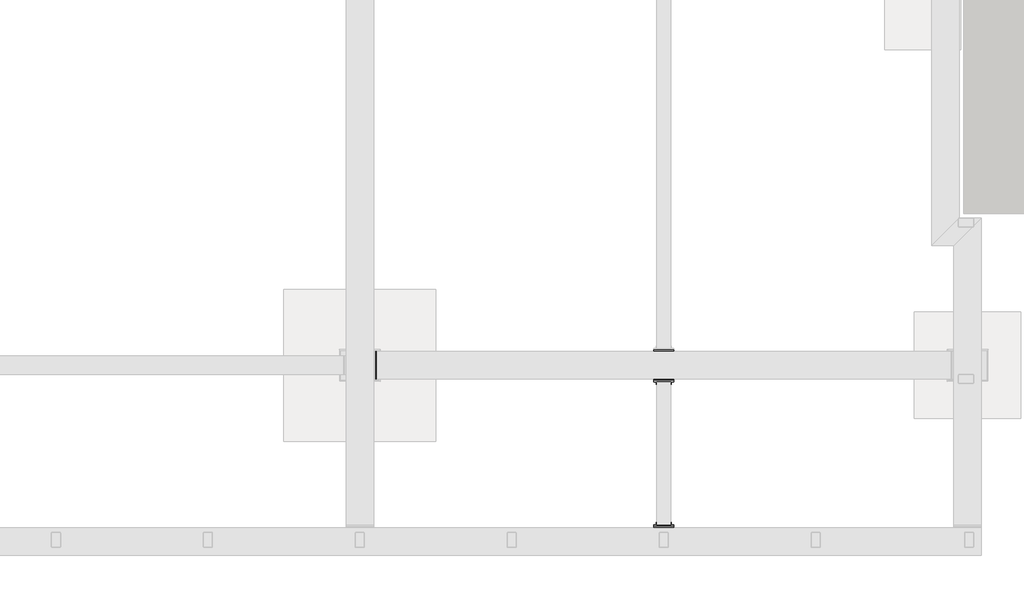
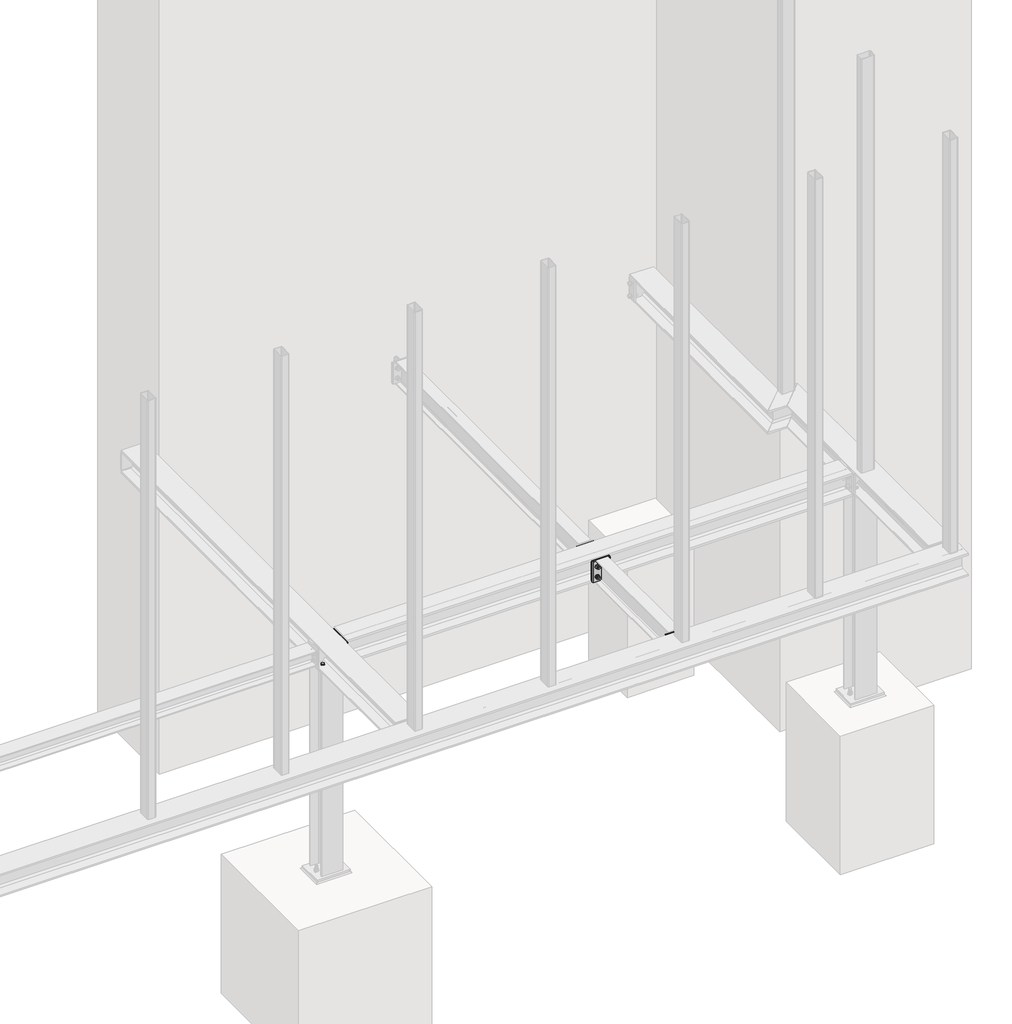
# One storey, part 13 of 31: 12 proxies.
"""IFC4 building model written with IfcOpenShell, lengths in millimetres."""

import ifcopenshell
import ifcopenshell.guid

model = None  # the IFC model being written
_history = None  # IfcOwnerHistory: only IFC2X3 demands one
_inside = {}  # id of a spatial element -> (the spatial element, [elements in it])
_under = {}  # id of a project, library or spatial element -> (it, [spatial elements below it])
_declared = {}  # id of a project -> (the project, [libraries it declares])
_typed = {}  # id of a type object -> (the type object, [elements of that type])
_made_of = {}  # id of a material, layer set ... -> (it, [elements and type objects made of it])


def new_model(schema):
    """Start an empty IFC model of exactly this schema.

    Asked for "IFC4X3", IfcOpenShell would pick the latest addendum, in which some entities
    have other attributes; the version numbers below select the first issue.
    IFC2X3 requires an IfcOwnerHistory on every rooted entity: one is made here for all.
    """
    global model, _history
    if schema == "IFC4X3":
        model = ifcopenshell.file(schema_version=(4, 3, 0, 0))
    else:
        model = ifcopenshell.file(schema=schema)
    _inside.clear()
    _under.clear()
    _declared.clear()
    _typed.clear()
    _made_of.clear()
    _history = None
    if model.schema == "IFC2X3":
        org = make("IfcOrganization", Name="unknown")
        user = make(
            "IfcPersonAndOrganization",
            ThePerson=make("IfcPerson", FamilyName="unknown"),
            TheOrganization=org,
        )
        app = make(
            "IfcApplication",
            ApplicationDeveloper=org,
            Version="unknown",
            ApplicationFullName="unknown",
            ApplicationIdentifier="unknown",
        )
        _history = make(
            "IfcOwnerHistory",
            OwningUser=user,
            OwningApplication=app,
            ChangeAction="ADDED",
            CreationDate=0,
        )
    return model


def make(cls, **values):
    """One entity of the class cls with the attributes given. An attribute that is None is left unset."""
    return model.create_entity(
        cls, **{name: value for name, value in values.items() if value is not None}
    )


def rooted(cls, **values):
    """An entity with a GlobalId (a new one), such as an element, a storey or a relation."""
    return make(cls, GlobalId=ifcopenshell.guid.new(), OwnerHistory=_history, **values)


def si_unit(unit_type, name, prefix=None):
    """IfcSIUnit, for example si_unit("LENGTHUNIT", "METRE", prefix="MILLI")."""
    return make("IfcSIUnit", UnitType=unit_type, Prefix=prefix, Name=name)


def assignment(units):
    """IfcUnitAssignment: the units of a project."""
    return None if units is None else make("IfcUnitAssignment", Units=units)


def point(xyz):
    """IfcCartesianPoint."""
    return None if xyz is None else make("IfcCartesianPoint", Coordinates=xyz)


def direction(xyz):
    """IfcDirection."""
    return None if xyz is None else make("IfcDirection", DirectionRatios=xyz)


def frame(location, z_axis=None, x_axis=None):
    """IfcAxis2Placement3D, a coordinate frame: its origin and axes. An axis left out is left unset."""
    return make(
        "IfcAxis2Placement3D",
        Location=point(location),
        Axis=direction(z_axis),
        RefDirection=direction(x_axis),
    )


def frame_2d(location, x_axis=None):
    """IfcAxis2Placement2D, a coordinate frame in the plane: its origin and x axis."""
    return make(
        "IfcAxis2Placement2D", Location=point(location), RefDirection=direction(x_axis)
    )


def origin():
    """The frame at (0, 0, 0) with its axes left unset."""
    return frame((0.0, 0.0, 0.0))


def place(relative_to, where):
    """IfcLocalPlacement: puts the frame where relative to a parent placement (None: the world)."""
    return make(
        "IfcLocalPlacement", PlacementRelTo=relative_to, RelativePlacement=where
    )


def context(
    kind, dimensions, precision=None, world=None, true_north=None, identifier=None
):
    """IfcGeometricRepresentationContext, for example the 3D "Model" context."""
    return make(
        "IfcGeometricRepresentationContext",
        ContextIdentifier=identifier,
        ContextType=kind,
        CoordinateSpaceDimension=dimensions,
        Precision=precision,
        WorldCoordinateSystem=world,
        TrueNorth=true_north,
    )


def project(units=None, contexts=None):
    """IfcProject with its units and contexts."""
    return rooted(
        "IfcProject",
        Name="project",
        RepresentationContexts=contexts,
        UnitsInContext=assignment(units),
    )


def spatial(cls, under=None, at=None, **own):
    """A site, building, storey or space (cls), placed at a placement, below another one or the project."""
    s = rooted(cls, ObjectPlacement=at, **own)
    if under is not None:
        _under.setdefault(under.id(), (under, []))[1].append(s)
    return s


def polyline(points):
    """IfcPolyline through the points."""
    return make("IfcPolyline", Points=[point(p) for p in points])


def circle_curve(where, radius):
    """IfcCircle in the frame where."""
    return make("IfcCircle", Position=where, Radius=radius)


def trimmed(basis, trim1, trim2, sense, master):
    """IfcTrimmedCurve: the piece of a basis curve between two trims."""
    return make(
        "IfcTrimmedCurve",
        BasisCurve=basis,
        Trim1=trim1,
        Trim2=trim2,
        SenseAgreement=sense,
        MasterRepresentation=master,
    )


def segment(curve, same_sense, transition):
    """IfcCompositeCurveSegment."""
    return make(
        "IfcCompositeCurveSegment",
        Transition=transition,
        SameSense=same_sense,
        ParentCurve=curve,
    )


def composite_curve(segments, self_intersect=None):
    """IfcCompositeCurve: segments joined end to end."""
    return make("IfcCompositeCurve", Segments=segments, SelfIntersect=self_intersect)


def outline(outer, holes=None, kind="AREA"):
    """IfcArbitraryClosedProfileDef: a profile drawn as a closed curve; with holes, ...WithVoids."""
    if holes is None:
        return make("IfcArbitraryClosedProfileDef", ProfileType=kind, OuterCurve=outer)
    return make(
        "IfcArbitraryProfileDefWithVoids",
        ProfileType=kind,
        OuterCurve=outer,
        InnerCurves=holes,
    )


def extrude(swept, where, along, depth):
    """IfcExtrudedAreaSolid: the profile swept, set in the frame where, extruded along a direction by depth."""
    return make(
        "IfcExtrudedAreaSolid",
        SweptArea=swept,
        Position=where,
        ExtrudedDirection=direction(along),
        Depth=depth,
    )


def shape(context_of_items, identifier, shape_type, items):
    """IfcShapeRepresentation: the items that make up one representation, for example the "Body"."""
    return make(
        "IfcShapeRepresentation",
        ContextOfItems=context_of_items,
        RepresentationIdentifier=identifier,
        RepresentationType=shape_type,
        Items=items,
    )


def made_of(thing, what):
    """Note that an element or type object is made of a material, layer set ...; save() writes the relation."""
    if what is not None:
        _made_of.setdefault(what.id(), (what, []))[1].append(thing)
    return thing


def element(
    cls,
    number,
    at=None,
    inside=None,
    cuts=None,
    type_object=None,
    material=None,
    context=None,
    identifier="Body",
    shape_type=None,
    held_by="IfcProductDefinitionShape",
    body=None,
    shapes=None,
    **own,
):
    """One element of the class cls, such as IfcWall. Its Tag is "e" and its number.

    at: its placement. inside: the storey or other place that contains it. cuts: it is an
    opening in that element (IfcRelVoidsElement). A single representation is given by context,
    identifier, shape_type and body (its items); several are given by shapes. held_by: the class
    of the entity that holds the representations. save() writes the other relations.
    """
    e = rooted(cls, Tag="e%d" % number, ObjectPlacement=at, **own)
    if body is not None:
        shapes = [shape(context, identifier, shape_type, body)]
    if shapes is not None:
        e.Representation = make(held_by, Representations=shapes)
    if inside is not None:
        _inside.setdefault(inside.id(), (inside, []))[1].append(e)
    if cuts is not None:
        rooted(
            "IfcRelVoidsElement", RelatingBuildingElement=cuts, RelatedOpeningElement=e
        )
    if type_object is not None:
        _typed.setdefault(type_object.id(), (type_object, []))[1].append(e)
    return made_of(e, material)


def aggregate(whole, parts):
    """IfcRelAggregates: a whole, such as a stair, and the parts it consists of."""
    return rooted("IfcRelAggregates", RelatingObject=whole, RelatedObjects=parts)


def save(model, path):
    """Write the relations noted so far, then the file.

    IfcRelAggregates (storeys below a building ...), IfcRelContainedInSpatialStructure (elements
    in a storey), IfcRelDefinesByType, IfcRelAssociatesMaterial and IfcRelDeclares: one each for
    every whole, place, type object, material and project.
    """
    for whole, parts in _under.values():
        aggregate(whole, parts)
    for where, things in _inside.values():
        rooted(
            "IfcRelContainedInSpatialStructure",
            RelatedElements=things,
            RelatingStructure=where,
        )
    for kind, things in _typed.values():
        rooted("IfcRelDefinesByType", RelatedObjects=things, RelatingType=kind)
    for what, things in _made_of.values():
        rooted("IfcRelAssociatesMaterial", RelatedObjects=things, RelatingMaterial=what)
    for by, libraries in _declared.values():
        rooted("IfcRelDeclares", RelatingContext=by, RelatedDefinitions=libraries)
    model.write(path)


model = new_model("IFC4")

# Units and contexts
model_context = context("Model", 3, world=origin())
ifc_project = project(units=[si_unit("LENGTHUNIT", "METRE", prefix="MILLI")], contexts=[model_context])

# Site, building, storey
site = spatial("IfcSite", under=ifc_project)
building = spatial("IfcBuilding", under=site)
storey = spatial("IfcBuildingStorey", under=building, Name="Základy", Elevation=-1200.0)

# Proxies
placement = place(None, origin())
element("IfcBuildingElementProxy", 1, Name="PLECH", ObjectType="PLECH", at=placement, inside=storey, context=model_context, shape_type="SweptSolid", body=[
    extrude(outline(composite_curve([segment(polyline([(190.0, -174.0), (190.0, -326.0), (124.25, -326.0)]), True, "CONTINUOUS"), segment(trimmed(circle_curve(frame_2d((104.25, -326.0)), 20.0), [point((124.25, -326.0))], [point((104.25, -306.0))], True, "CARTESIAN"), True, "CONTINUOUS"), segment(polyline([(104.25, -306.0), (104.25, -194.0)]), True, "CONTINUOUS"), segment(trimmed(circle_curve(frame_2d((104.25, -174.0)), 20.0), [point((104.25, -194.0))], [point((124.25, -174.0))], True, "CARTESIAN"), True, "CONTINUOUS"), segment(polyline([(124.25, -174.0), (190.0, -174.0)]), True, "CONTINUOUS")], self_intersect=False)), frame((14046.0, 0.0, 0.0), z_axis=(1.0, 0.0, 0.0), x_axis=(0.0, 1.0, 0.0)), (0.0, 0.0, 1.0), 8.0),
])
element("IfcBuildingElementProxy", 2, Name="PLECH", ObjectType="PLECH", at=placement, inside=storey, context=model_context, shape_type="SweptSolid", body=[
    extrude(outline(polyline([(13985.0, 200.0), (14115.0, 200.0), (14115.0, 190.0), (13985.0, 190.0), (13985.0, 200.0)])), frame((0.0, 0.0, -332.0), z_axis=(0.0, 0.0, 1.0), x_axis=(1.0, 0.0, 0.0)), (0.0, 0.0, 1.0), 164.0),
])
element("IfcBuildingElementProxy", 3, Name="PLECH", ObjectType="PLECH", at=placement, inside=storey, context=model_context, shape_type="SweptSolid", body=[
    extrude(outline(polyline([(13985.0, 210.0), (14115.0, 210.0), (14115.0, 200.0), (13985.0, 200.0), (13985.0, 210.0)])), frame((0.0, 0.0, -332.0), z_axis=(0.0, 0.0, 1.0), x_axis=(1.0, 0.0, 0.0)), (0.0, 0.0, 1.0), 164.0),
])
element("IfcBuildingElementProxy", 4, Name="PLECH", ObjectType="PLECH", at=placement, inside=storey, context=model_context, shape_type="SweptSolid", body=[
    extrude(outline(polyline([(13985.0, 1160.0), (14115.0, 1160.0), (14115.0, 1150.0), (13985.0, 1150.0), (13985.0, 1160.0)])), frame((0.0, 0.0, -332.0), z_axis=(0.0, 0.0, 1.0), x_axis=(1.0, 0.0, 0.0)), (0.0, 0.0, 1.0), 164.0),
])
element("IfcBuildingElementProxy", 5, Name="PLECH", ObjectType="PLECH", at=placement, inside=storey, context=model_context, shape_type="SweptSolid", body=[
    extrude(outline(polyline([(12150.0, 1170.0), (12150.0, 1350.0), (12160.0, 1350.0), (12160.0, 1170.0), (12150.0, 1170.0)])), frame((0.0, 0.0, -326.0), z_axis=(0.0, 0.0, 1.0), x_axis=(1.0, 0.0, 0.0)), (0.0, 0.0, 1.0), 152.0),
])
element("IfcBuildingElementProxy", 6, Name="PLECH", ObjectType="PLECH", at=placement, inside=storey, context=model_context, shape_type="SweptSolid", body=[
    extrude(outline(composite_curve([segment(polyline([(1170.0, -174.0), (1235.75, -174.0)]), True, "CONTINUOUS"), segment(trimmed(circle_curve(frame_2d((1255.75, -174.0)), 20.0), [point((1235.75, -174.0))], [point((1255.75, -194.0))], True, "CARTESIAN"), True, "CONTINUOUS"), segment(polyline([(1255.75, -194.0), (1255.75, -306.0)]), True, "CONTINUOUS"), segment(trimmed(circle_curve(frame_2d((1255.75, -326.0)), 20.0), [point((1255.75, -306.0))], [point((1235.75, -326.0))], True, "CARTESIAN"), True, "CONTINUOUS"), segment(polyline([(1235.75, -326.0), (1170.0, -326.0), (1170.0, -174.0)]), True, "CONTINUOUS")], self_intersect=False)), frame((14046.0, 0.0, 0.0), z_axis=(1.0, 0.0, 0.0), x_axis=(0.0, 1.0, 0.0)), (0.0, 0.0, 1.0), 8.0),
])
element("IfcBuildingElementProxy", 7, Name="PLECH", ObjectType="PLECH", at=placement, inside=storey, context=model_context, shape_type="SweptSolid", body=[
    extrude(outline(polyline([(13985.0, 1170.0), (14115.0, 1170.0), (14115.0, 1160.0), (13985.0, 1160.0), (13985.0, 1170.0)])), frame((0.0, 0.0, -332.0), z_axis=(0.0, 0.0, 1.0), x_axis=(1.0, 0.0, 0.0)), (0.0, 0.0, 1.0), 164.0),
])
element("IfcBuildingElementProxy", 8, Name="PLECH", ObjectType="PLECH", at=placement, inside=storey, context=model_context, shape_type="SweptSolid", body=[
    extrude(outline(composite_curve([segment(polyline([(1350.0, -174.0), (1350.0, -326.0), (1284.25, -326.0)]), True, "CONTINUOUS"), segment(trimmed(circle_curve(frame_2d((1264.25, -326.0)), 20.0), [point((1284.25, -326.0))], [point((1264.25, -306.0))], True, "CARTESIAN"), True, "CONTINUOUS"), segment(polyline([(1264.25, -306.0), (1264.25, -194.0)]), True, "CONTINUOUS"), segment(trimmed(circle_curve(frame_2d((1264.25, -174.0)), 20.0), [point((1264.25, -194.0))], [point((1284.25, -174.0))], True, "CARTESIAN"), True, "CONTINUOUS"), segment(polyline([(1284.25, -174.0), (1350.0, -174.0)]), True, "CONTINUOUS")], self_intersect=False)), frame((14046.0, 0.0, 0.0), z_axis=(1.0, 0.0, 0.0), x_axis=(0.0, 1.0, 0.0)), (0.0, 0.0, 1.0), 8.0),
])
element("IfcBuildingElementProxy", 9, Name="PLECH", ObjectType="PLECH", at=placement, inside=storey, context=model_context, shape_type="SweptSolid", body=[
    extrude(outline(polyline([(13985.0, 1360.0), (14115.0, 1360.0), (14115.0, 1350.0), (13985.0, 1350.0), (13985.0, 1360.0)])), frame((0.0, 0.0, -332.0), z_axis=(0.0, 0.0, 1.0), x_axis=(1.0, 0.0, 0.0)), (0.0, 0.0, 1.0), 164.0),
])
element("IfcBuildingElementProxy", 10, Name="Bolt assembly", ObjectType="Bolt assembly", at=placement, inside=storey, context=model_context, shape_type="SweptSolid", body=[
    extrude(outline(composite_curve([segment(trimmed(circle_curve(frame_2d((12000.0, 1220.0)), 6.5), [point((12006.5, 1220.0))], [point((11993.5, 1220.0))], False, "CARTESIAN"), True, "CONTINUOUS"), segment(trimmed(circle_curve(frame_2d((12000.0, 1220.0)), 6.5), [point((11993.5, 1220.0))], [point((12006.5, 1220.0))], False, "CARTESIAN"), True, "CONTINUOUS")], self_intersect=False)), frame((0.0, 0.0, -350.0), z_axis=(0.0, 0.0, 1.0), x_axis=(1.0, 0.0, 0.0)), (0.0, 0.0, 1.0), 10.1),
    extrude(outline(polyline([(12010.3923048, 1220.0), (12005.1961524, 1211.0), (11994.8038476, 1211.0), (11989.6076952, 1220.0), (11994.8038476, 1229.0), (12005.1961524, 1229.0), (12010.3923048, 1220.0)])), frame((0.0, 0.0, -323.5), z_axis=(0.0, 0.0, 1.0), x_axis=(1.0, 0.0, 0.0)), (0.0, 0.0, 1.0), 7.5),
    extrude(outline(composite_curve([segment(trimmed(circle_curve(frame_2d((12000.0, 1220.0)), 6.0), [point((12006.0, 1220.0))], [point((11994.0, 1220.0))], False, "CARTESIAN"), True, "CONTINUOUS"), segment(trimmed(circle_curve(frame_2d((12000.0, 1220.0)), 6.0), [point((11994.0, 1220.0))], [point((12006.0, 1220.0))], False, "CARTESIAN"), True, "CONTINUOUS")], self_intersect=False)), frame((0.0, 0.0, -368.5), z_axis=(0.0, 0.0, 1.0), x_axis=(1.0, 0.0, 0.0)), (0.0, 0.0, 1.0), 45.0),
    extrude(outline(composite_curve([segment(trimmed(circle_curve(frame_2d((12000.0, 1220.0)), 12.0), [point((12012.0, 1220.0))], [point((11988.0, 1220.0))], False, "CARTESIAN"), True, "CONTINUOUS"), segment(trimmed(circle_curve(frame_2d((12000.0, 1220.0)), 12.0), [point((11988.0, 1220.0))], [point((12012.0, 1220.0))], False, "CARTESIAN"), True, "CONTINUOUS")], self_intersect=False)), frame((0.0, 0.0, -326.0), z_axis=(0.0, 0.0, 1.0), x_axis=(1.0, 0.0, 0.0)), (0.0, 0.0, 1.0), 2.5),
    extrude(outline(composite_curve([segment(trimmed(circle_curve(frame_2d((12000.0, 1220.0)), 12.0), [point((12012.0, 1220.0))], [point((11988.0, 1220.0))], False, "CARTESIAN"), True, "CONTINUOUS"), segment(trimmed(circle_curve(frame_2d((12000.0, 1220.0)), 12.0), [point((11988.0, 1220.0))], [point((12012.0, 1220.0))], False, "CARTESIAN"), True, "CONTINUOUS")], self_intersect=False)), frame((0.0, 0.0, -352.5), z_axis=(0.0, 0.0, 1.0), x_axis=(1.0, 0.0, 0.0)), (0.0, 0.0, 1.0), 2.5),
    extrude(outline(polyline([(12010.9696551, 1220.0), (12005.4848276, 1210.5), (11994.5151724, 1210.5), (11989.0303449, 1220.0), (11994.5151724, 1229.5), (12005.4848276, 1229.5), (12010.9696551, 1220.0)])), frame((0.0, 0.0, -362.5), z_axis=(0.0, 0.0, 1.0), x_axis=(1.0, 0.0, 0.0)), (0.0, 0.0, 1.0), 10.0),
    extrude(outline(composite_curve([segment(trimmed(circle_curve(frame_2d((12000.0, 1220.0)), 6.5), [point((12006.5, 1220.0))], [point((11993.5, 1220.0))], False, "CARTESIAN"), True, "CONTINUOUS"), segment(trimmed(circle_curve(frame_2d((12000.0, 1220.0)), 6.5), [point((11993.5, 1220.0))], [point((12006.5, 1220.0))], False, "CARTESIAN"), True, "CONTINUOUS")], self_intersect=False)), frame((0.0, 0.0, -340.1), z_axis=(0.0, 0.0, 1.0), x_axis=(1.0, 0.0, 0.0)), (0.0, 0.0, 1.0), 14.0),
    extrude(outline(composite_curve([segment(trimmed(circle_curve(frame_2d((12100.0, 1220.0)), 6.5), [point((12106.5, 1220.0))], [point((12093.5, 1220.0))], False, "CARTESIAN"), True, "CONTINUOUS"), segment(trimmed(circle_curve(frame_2d((12100.0, 1220.0)), 6.5), [point((12093.5, 1220.0))], [point((12106.5, 1220.0))], False, "CARTESIAN"), True, "CONTINUOUS")], self_intersect=False)), frame((0.0, 0.0, -350.0), z_axis=(0.0, 0.0, 1.0), x_axis=(1.0, 0.0, 0.0)), (0.0, 0.0, 1.0), 10.1),
    extrude(outline(polyline([(12110.3923048, 1220.0), (12105.1961524, 1211.0), (12094.8038476, 1211.0), (12089.6076952, 1220.0), (12094.8038476, 1229.0), (12105.1961524, 1229.0), (12110.3923048, 1220.0)])), frame((0.0, 0.0, -323.5), z_axis=(0.0, 0.0, 1.0), x_axis=(1.0, 0.0, 0.0)), (0.0, 0.0, 1.0), 7.5),
    extrude(outline(composite_curve([segment(trimmed(circle_curve(frame_2d((12100.0, 1220.0)), 6.0), [point((12106.0, 1220.0))], [point((12094.0, 1220.0))], False, "CARTESIAN"), True, "CONTINUOUS"), segment(trimmed(circle_curve(frame_2d((12100.0, 1220.0)), 6.0), [point((12094.0, 1220.0))], [point((12106.0, 1220.0))], False, "CARTESIAN"), True, "CONTINUOUS")], self_intersect=False)), frame((0.0, 0.0, -368.5), z_axis=(0.0, 0.0, 1.0), x_axis=(1.0, 0.0, 0.0)), (0.0, 0.0, 1.0), 45.0),
    extrude(outline(composite_curve([segment(trimmed(circle_curve(frame_2d((12100.0, 1220.0)), 12.0), [point((12112.0, 1220.0))], [point((12088.0, 1220.0))], False, "CARTESIAN"), True, "CONTINUOUS"), segment(trimmed(circle_curve(frame_2d((12100.0, 1220.0)), 12.0), [point((12088.0, 1220.0))], [point((12112.0, 1220.0))], False, "CARTESIAN"), True, "CONTINUOUS")], self_intersect=False)), frame((0.0, 0.0, -326.0), z_axis=(0.0, 0.0, 1.0), x_axis=(1.0, 0.0, 0.0)), (0.0, 0.0, 1.0), 2.5),
    extrude(outline(composite_curve([segment(trimmed(circle_curve(frame_2d((12100.0, 1220.0)), 12.0), [point((12112.0, 1220.0))], [point((12088.0, 1220.0))], False, "CARTESIAN"), True, "CONTINUOUS"), segment(trimmed(circle_curve(frame_2d((12100.0, 1220.0)), 12.0), [point((12088.0, 1220.0))], [point((12112.0, 1220.0))], False, "CARTESIAN"), True, "CONTINUOUS")], self_intersect=False)), frame((0.0, 0.0, -352.5), z_axis=(0.0, 0.0, 1.0), x_axis=(1.0, 0.0, 0.0)), (0.0, 0.0, 1.0), 2.5),
    extrude(outline(polyline([(12110.9696551, 1220.0), (12105.4848276, 1210.5), (12094.5151724, 1210.5), (12089.0303449, 1220.0), (12094.5151724, 1229.5), (12105.4848276, 1229.5), (12110.9696551, 1220.0)])), frame((0.0, 0.0, -362.5), z_axis=(0.0, 0.0, 1.0), x_axis=(1.0, 0.0, 0.0)), (0.0, 0.0, 1.0), 10.0),
    extrude(outline(composite_curve([segment(trimmed(circle_curve(frame_2d((12100.0, 1220.0)), 6.5), [point((12106.5, 1220.0))], [point((12093.5, 1220.0))], False, "CARTESIAN"), True, "CONTINUOUS"), segment(trimmed(circle_curve(frame_2d((12100.0, 1220.0)), 6.5), [point((12093.5, 1220.0))], [point((12106.5, 1220.0))], False, "CARTESIAN"), True, "CONTINUOUS")], self_intersect=False)), frame((0.0, 0.0, -340.1), z_axis=(0.0, 0.0, 1.0), x_axis=(1.0, 0.0, 0.0)), (0.0, 0.0, 1.0), 14.0),
    extrude(outline(composite_curve([segment(trimmed(circle_curve(frame_2d((12000.0, 1300.0)), 6.5), [point((12006.5, 1300.0))], [point((11993.5, 1300.0))], False, "CARTESIAN"), True, "CONTINUOUS"), segment(trimmed(circle_curve(frame_2d((12000.0, 1300.0)), 6.5), [point((11993.5, 1300.0))], [point((12006.5, 1300.0))], False, "CARTESIAN"), True, "CONTINUOUS")], self_intersect=False)), frame((0.0, 0.0, -350.0), z_axis=(0.0, 0.0, 1.0), x_axis=(1.0, 0.0, 0.0)), (0.0, 0.0, 1.0), 10.1),
    extrude(outline(polyline([(12010.3923048, 1300.0), (12005.1961524, 1291.0), (11994.8038476, 1291.0), (11989.6076952, 1300.0), (11994.8038476, 1309.0), (12005.1961524, 1309.0), (12010.3923048, 1300.0)])), frame((0.0, 0.0, -323.5), z_axis=(0.0, 0.0, 1.0), x_axis=(1.0, 0.0, 0.0)), (0.0, 0.0, 1.0), 7.5),
    extrude(outline(composite_curve([segment(trimmed(circle_curve(frame_2d((12000.0, 1300.0)), 6.0), [point((12006.0, 1300.0))], [point((11994.0, 1300.0))], False, "CARTESIAN"), True, "CONTINUOUS"), segment(trimmed(circle_curve(frame_2d((12000.0, 1300.0)), 6.0), [point((11994.0, 1300.0))], [point((12006.0, 1300.0))], False, "CARTESIAN"), True, "CONTINUOUS")], self_intersect=False)), frame((0.0, 0.0, -368.5), z_axis=(0.0, 0.0, 1.0), x_axis=(1.0, 0.0, 0.0)), (0.0, 0.0, 1.0), 45.0),
    extrude(outline(composite_curve([segment(trimmed(circle_curve(frame_2d((12000.0, 1300.0)), 12.0), [point((12012.0, 1300.0))], [point((11988.0, 1300.0))], False, "CARTESIAN"), True, "CONTINUOUS"), segment(trimmed(circle_curve(frame_2d((12000.0, 1300.0)), 12.0), [point((11988.0, 1300.0))], [point((12012.0, 1300.0))], False, "CARTESIAN"), True, "CONTINUOUS")], self_intersect=False)), frame((0.0, 0.0, -326.0), z_axis=(0.0, 0.0, 1.0), x_axis=(1.0, 0.0, 0.0)), (0.0, 0.0, 1.0), 2.5),
    extrude(outline(composite_curve([segment(trimmed(circle_curve(frame_2d((12000.0, 1300.0)), 12.0), [point((12012.0, 1300.0))], [point((11988.0, 1300.0))], False, "CARTESIAN"), True, "CONTINUOUS"), segment(trimmed(circle_curve(frame_2d((12000.0, 1300.0)), 12.0), [point((11988.0, 1300.0))], [point((12012.0, 1300.0))], False, "CARTESIAN"), True, "CONTINUOUS")], self_intersect=False)), frame((0.0, 0.0, -352.5), z_axis=(0.0, 0.0, 1.0), x_axis=(1.0, 0.0, 0.0)), (0.0, 0.0, 1.0), 2.5),
    extrude(outline(polyline([(12010.9696551, 1300.0), (12005.4848276, 1290.5), (11994.5151724, 1290.5), (11989.0303449, 1300.0), (11994.5151724, 1309.5), (12005.4848276, 1309.5), (12010.9696551, 1300.0)])), frame((0.0, 0.0, -362.5), z_axis=(0.0, 0.0, 1.0), x_axis=(1.0, 0.0, 0.0)), (0.0, 0.0, 1.0), 10.0),
    extrude(outline(composite_curve([segment(trimmed(circle_curve(frame_2d((12000.0, 1300.0)), 6.5), [point((12006.5, 1300.0))], [point((11993.5, 1300.0))], False, "CARTESIAN"), True, "CONTINUOUS"), segment(trimmed(circle_curve(frame_2d((12000.0, 1300.0)), 6.5), [point((11993.5, 1300.0))], [point((12006.5, 1300.0))], False, "CARTESIAN"), True, "CONTINUOUS")], self_intersect=False)), frame((0.0, 0.0, -340.1), z_axis=(0.0, 0.0, 1.0), x_axis=(1.0, 0.0, 0.0)), (0.0, 0.0, 1.0), 14.0),
    extrude(outline(composite_curve([segment(trimmed(circle_curve(frame_2d((12100.0, 1300.0)), 6.5), [point((12106.5, 1300.0))], [point((12093.5, 1300.0))], False, "CARTESIAN"), True, "CONTINUOUS"), segment(trimmed(circle_curve(frame_2d((12100.0, 1300.0)), 6.5), [point((12093.5, 1300.0))], [point((12106.5, 1300.0))], False, "CARTESIAN"), True, "CONTINUOUS")], self_intersect=False)), frame((0.0, 0.0, -350.0), z_axis=(0.0, 0.0, 1.0), x_axis=(1.0, 0.0, 0.0)), (0.0, 0.0, 1.0), 10.1),
    extrude(outline(polyline([(12110.3923048, 1300.0), (12105.1961524, 1291.0), (12094.8038476, 1291.0), (12089.6076952, 1300.0), (12094.8038476, 1309.0), (12105.1961524, 1309.0), (12110.3923048, 1300.0)])), frame((0.0, 0.0, -323.5), z_axis=(0.0, 0.0, 1.0), x_axis=(1.0, 0.0, 0.0)), (0.0, 0.0, 1.0), 7.5),
    extrude(outline(composite_curve([segment(trimmed(circle_curve(frame_2d((12100.0, 1300.0)), 6.0), [point((12106.0, 1300.0))], [point((12094.0, 1300.0))], False, "CARTESIAN"), True, "CONTINUOUS"), segment(trimmed(circle_curve(frame_2d((12100.0, 1300.0)), 6.0), [point((12094.0, 1300.0))], [point((12106.0, 1300.0))], False, "CARTESIAN"), True, "CONTINUOUS")], self_intersect=False)), frame((0.0, 0.0, -368.5), z_axis=(0.0, 0.0, 1.0), x_axis=(1.0, 0.0, 0.0)), (0.0, 0.0, 1.0), 45.0),
    extrude(outline(composite_curve([segment(trimmed(circle_curve(frame_2d((12100.0, 1300.0)), 12.0), [point((12112.0, 1300.0))], [point((12088.0, 1300.0))], False, "CARTESIAN"), True, "CONTINUOUS"), segment(trimmed(circle_curve(frame_2d((12100.0, 1300.0)), 12.0), [point((12088.0, 1300.0))], [point((12112.0, 1300.0))], False, "CARTESIAN"), True, "CONTINUOUS")], self_intersect=False)), frame((0.0, 0.0, -326.0), z_axis=(0.0, 0.0, 1.0), x_axis=(1.0, 0.0, 0.0)), (0.0, 0.0, 1.0), 2.5),
    extrude(outline(composite_curve([segment(trimmed(circle_curve(frame_2d((12100.0, 1300.0)), 12.0), [point((12112.0, 1300.0))], [point((12088.0, 1300.0))], False, "CARTESIAN"), True, "CONTINUOUS"), segment(trimmed(circle_curve(frame_2d((12100.0, 1300.0)), 12.0), [point((12088.0, 1300.0))], [point((12112.0, 1300.0))], False, "CARTESIAN"), True, "CONTINUOUS")], self_intersect=False)), frame((0.0, 0.0, -352.5), z_axis=(0.0, 0.0, 1.0), x_axis=(1.0, 0.0, 0.0)), (0.0, 0.0, 1.0), 2.5),
    extrude(outline(polyline([(12110.9696551, 1300.0), (12105.4848276, 1290.5), (12094.5151724, 1290.5), (12089.0303449, 1300.0), (12094.5151724, 1309.5), (12105.4848276, 1309.5), (12110.9696551, 1300.0)])), frame((0.0, 0.0, -362.5), z_axis=(0.0, 0.0, 1.0), x_axis=(1.0, 0.0, 0.0)), (0.0, 0.0, 1.0), 10.0),
    extrude(outline(composite_curve([segment(trimmed(circle_curve(frame_2d((12100.0, 1300.0)), 6.5), [point((12106.5, 1300.0))], [point((12093.5, 1300.0))], False, "CARTESIAN"), True, "CONTINUOUS"), segment(trimmed(circle_curve(frame_2d((12100.0, 1300.0)), 6.5), [point((12093.5, 1300.0))], [point((12106.5, 1300.0))], False, "CARTESIAN"), True, "CONTINUOUS")], self_intersect=False)), frame((0.0, 0.0, -340.1), z_axis=(0.0, 0.0, 1.0), x_axis=(1.0, 0.0, 0.0)), (0.0, 0.0, 1.0), 14.0),
])
element("IfcBuildingElementProxy", 11, Name="Bolt assembly", ObjectType="Bolt assembly", at=placement, inside=storey, context=model_context, shape_type="SweptSolid", body=[
    extrude(outline(composite_curve([segment(trimmed(circle_curve(frame_2d((-290.0, 14015.0)), 9.0), [point((-290.0, 14024.0))], [point((-290.0, 14006.0))], False, "CARTESIAN"), True, "CONTINUOUS"), segment(trimmed(circle_curve(frame_2d((-290.0, 14015.0)), 9.0), [point((-290.0, 14006.0))], [point((-290.0, 14024.0))], False, "CARTESIAN"), True, "CONTINUOUS")], self_intersect=False)), frame((0.0, 190.1, 0.0), z_axis=(0.0, 1.0, 0.0), x_axis=(0.0, 0.0, 1.0)), (0.0, 0.0, 1.0), 10.0),
    extrude(outline(polyline([(-290.0, 14028.8564065), (-278.0, 14021.9282032), (-278.0, 14008.0717968), (-290.0, 14001.1435935), (-302.0, 14008.0717968), (-302.0, 14021.9282032), (-290.0, 14028.8564065)])), frame((0.0, 177.0, 0.0), z_axis=(0.0, 1.0, 0.0), x_axis=(0.0, 0.0, 1.0)), (0.0, 0.0, 1.0), 10.0),
    extrude(outline(composite_curve([segment(trimmed(circle_curve(frame_2d((-290.0, 14015.0)), 8.0), [point((-290.0, 14023.0))], [point((-290.0, 14007.0))], False, "CARTESIAN"), True, "CONTINUOUS"), segment(trimmed(circle_curve(frame_2d((-290.0, 14015.0)), 8.0), [point((-290.0, 14007.0))], [point((-290.0, 14023.0))], False, "CARTESIAN"), True, "CONTINUOUS")], self_intersect=False)), frame((0.0, 187.0, 0.0), z_axis=(0.0, 1.0, 0.0), x_axis=(0.0, 0.0, 1.0)), (0.0, 0.0, 1.0), 50.0),
    extrude(outline(composite_curve([segment(trimmed(circle_curve(frame_2d((-290.0, 14015.0)), 15.0), [point((-290.0, 14030.0))], [point((-290.0, 14000.0))], False, "CARTESIAN"), True, "CONTINUOUS"), segment(trimmed(circle_curve(frame_2d((-290.0, 14015.0)), 15.0), [point((-290.0, 14000.0))], [point((-290.0, 14030.0))], False, "CARTESIAN"), True, "CONTINUOUS")], self_intersect=False)), frame((0.0, 187.0, 0.0), z_axis=(0.0, 1.0, 0.0), x_axis=(0.0, 0.0, 1.0)), (0.0, 0.0, 1.0), 3.0),
    extrude(outline(composite_curve([segment(trimmed(circle_curve(frame_2d((-290.0, 14015.0)), 15.0), [point((-290.0, 14030.0))], [point((-290.0, 14000.0))], False, "CARTESIAN"), True, "CONTINUOUS"), segment(trimmed(circle_curve(frame_2d((-290.0, 14015.0)), 15.0), [point((-290.0, 14000.0))], [point((-290.0, 14030.0))], False, "CARTESIAN"), True, "CONTINUOUS")], self_intersect=False)), frame((0.0, 210.0, 0.0), z_axis=(0.0, 1.0, 0.0), x_axis=(0.0, 0.0, 1.0)), (0.0, 0.0, 1.0), 3.0),
    extrude(outline(polyline([(-290.0, 14030.4441197), (-276.625, 14022.7220599), (-276.625, 14007.2779401), (-290.0, 13999.5558803), (-303.375, 14007.2779401), (-303.375, 14022.7220599), (-290.0, 14030.4441197)])), frame((0.0, 213.0, 0.0), z_axis=(0.0, 1.0, 0.0), x_axis=(0.0, 0.0, 1.0)), (0.0, 0.0, 1.0), 13.0),
    extrude(outline(composite_curve([segment(trimmed(circle_curve(frame_2d((-290.0, 14015.0)), 9.0), [point((-290.0, 14024.0))], [point((-290.0, 14006.0))], False, "CARTESIAN"), True, "CONTINUOUS"), segment(trimmed(circle_curve(frame_2d((-290.0, 14015.0)), 9.0), [point((-290.0, 14006.0))], [point((-290.0, 14024.0))], False, "CARTESIAN"), True, "CONTINUOUS")], self_intersect=False)), frame((0.0, 199.9, 0.0), z_axis=(0.0, 1.0, 0.0), x_axis=(0.0, 0.0, 1.0)), (0.0, 0.0, 1.0), 10.1),
    extrude(outline(composite_curve([segment(trimmed(circle_curve(frame_2d((-290.0, 14085.0)), 9.0), [point((-290.0, 14094.0))], [point((-290.0, 14076.0))], False, "CARTESIAN"), True, "CONTINUOUS"), segment(trimmed(circle_curve(frame_2d((-290.0, 14085.0)), 9.0), [point((-290.0, 14076.0))], [point((-290.0, 14094.0))], False, "CARTESIAN"), True, "CONTINUOUS")], self_intersect=False)), frame((0.0, 190.1, 0.0), z_axis=(0.0, 1.0, 0.0), x_axis=(0.0, 0.0, 1.0)), (0.0, 0.0, 1.0), 10.0),
    extrude(outline(polyline([(-290.0, 14098.8564065), (-278.0, 14091.9282032), (-278.0, 14078.0717968), (-290.0, 14071.1435935), (-302.0, 14078.0717968), (-302.0, 14091.9282032), (-290.0, 14098.8564065)])), frame((0.0, 177.0, 0.0), z_axis=(0.0, 1.0, 0.0), x_axis=(0.0, 0.0, 1.0)), (0.0, 0.0, 1.0), 10.0),
    extrude(outline(composite_curve([segment(trimmed(circle_curve(frame_2d((-290.0, 14085.0)), 8.0), [point((-290.0, 14093.0))], [point((-290.0, 14077.0))], False, "CARTESIAN"), True, "CONTINUOUS"), segment(trimmed(circle_curve(frame_2d((-290.0, 14085.0)), 8.0), [point((-290.0, 14077.0))], [point((-290.0, 14093.0))], False, "CARTESIAN"), True, "CONTINUOUS")], self_intersect=False)), frame((0.0, 187.0, 0.0), z_axis=(0.0, 1.0, 0.0), x_axis=(0.0, 0.0, 1.0)), (0.0, 0.0, 1.0), 50.0),
    extrude(outline(composite_curve([segment(trimmed(circle_curve(frame_2d((-290.0, 14085.0)), 15.0), [point((-290.0, 14100.0))], [point((-290.0, 14070.0))], False, "CARTESIAN"), True, "CONTINUOUS"), segment(trimmed(circle_curve(frame_2d((-290.0, 14085.0)), 15.0), [point((-290.0, 14070.0))], [point((-290.0, 14100.0))], False, "CARTESIAN"), True, "CONTINUOUS")], self_intersect=False)), frame((0.0, 187.0, 0.0), z_axis=(0.0, 1.0, 0.0), x_axis=(0.0, 0.0, 1.0)), (0.0, 0.0, 1.0), 3.0),
    extrude(outline(composite_curve([segment(trimmed(circle_curve(frame_2d((-290.0, 14085.0)), 15.0), [point((-290.0, 14100.0))], [point((-290.0, 14070.0))], False, "CARTESIAN"), True, "CONTINUOUS"), segment(trimmed(circle_curve(frame_2d((-290.0, 14085.0)), 15.0), [point((-290.0, 14070.0))], [point((-290.0, 14100.0))], False, "CARTESIAN"), True, "CONTINUOUS")], self_intersect=False)), frame((0.0, 210.0, 0.0), z_axis=(0.0, 1.0, 0.0), x_axis=(0.0, 0.0, 1.0)), (0.0, 0.0, 1.0), 3.0),
    extrude(outline(polyline([(-290.0, 14100.4441197), (-276.625, 14092.7220599), (-276.625, 14077.2779401), (-290.0, 14069.5558803), (-303.375, 14077.2779401), (-303.375, 14092.7220599), (-290.0, 14100.4441197)])), frame((0.0, 213.0, 0.0), z_axis=(0.0, 1.0, 0.0), x_axis=(0.0, 0.0, 1.0)), (0.0, 0.0, 1.0), 13.0),
    extrude(outline(composite_curve([segment(trimmed(circle_curve(frame_2d((-290.0, 14085.0)), 9.0), [point((-290.0, 14094.0))], [point((-290.0, 14076.0))], False, "CARTESIAN"), True, "CONTINUOUS"), segment(trimmed(circle_curve(frame_2d((-290.0, 14085.0)), 9.0), [point((-290.0, 14076.0))], [point((-290.0, 14094.0))], False, "CARTESIAN"), True, "CONTINUOUS")], self_intersect=False)), frame((0.0, 199.9, 0.0), z_axis=(0.0, 1.0, 0.0), x_axis=(0.0, 0.0, 1.0)), (0.0, 0.0, 1.0), 10.1),
    extrude(outline(composite_curve([segment(trimmed(circle_curve(frame_2d((-210.0, 14015.0)), 9.0), [point((-210.0, 14024.0))], [point((-210.0, 14006.0))], False, "CARTESIAN"), True, "CONTINUOUS"), segment(trimmed(circle_curve(frame_2d((-210.0, 14015.0)), 9.0), [point((-210.0, 14006.0))], [point((-210.0, 14024.0))], False, "CARTESIAN"), True, "CONTINUOUS")], self_intersect=False)), frame((0.0, 190.1, 0.0), z_axis=(0.0, 1.0, 0.0), x_axis=(0.0, 0.0, 1.0)), (0.0, 0.0, 1.0), 10.0),
    extrude(outline(polyline([(-210.0, 14028.8564065), (-198.0, 14021.9282032), (-198.0, 14008.0717968), (-210.0, 14001.1435935), (-222.0, 14008.0717968), (-222.0, 14021.9282032), (-210.0, 14028.8564065)])), frame((0.0, 177.0, 0.0), z_axis=(0.0, 1.0, 0.0), x_axis=(0.0, 0.0, 1.0)), (0.0, 0.0, 1.0), 10.0),
    extrude(outline(composite_curve([segment(trimmed(circle_curve(frame_2d((-210.0, 14015.0)), 8.0), [point((-210.0, 14023.0))], [point((-210.0, 14007.0))], False, "CARTESIAN"), True, "CONTINUOUS"), segment(trimmed(circle_curve(frame_2d((-210.0, 14015.0)), 8.0), [point((-210.0, 14007.0))], [point((-210.0, 14023.0))], False, "CARTESIAN"), True, "CONTINUOUS")], self_intersect=False)), frame((0.0, 187.0, 0.0), z_axis=(0.0, 1.0, 0.0), x_axis=(0.0, 0.0, 1.0)), (0.0, 0.0, 1.0), 50.0),
    extrude(outline(composite_curve([segment(trimmed(circle_curve(frame_2d((-210.0, 14015.0)), 15.0), [point((-210.0, 14030.0))], [point((-210.0, 14000.0))], False, "CARTESIAN"), True, "CONTINUOUS"), segment(trimmed(circle_curve(frame_2d((-210.0, 14015.0)), 15.0), [point((-210.0, 14000.0))], [point((-210.0, 14030.0))], False, "CARTESIAN"), True, "CONTINUOUS")], self_intersect=False)), frame((0.0, 187.0, 0.0), z_axis=(0.0, 1.0, 0.0), x_axis=(0.0, 0.0, 1.0)), (0.0, 0.0, 1.0), 3.0),
    extrude(outline(composite_curve([segment(trimmed(circle_curve(frame_2d((-210.0, 14015.0)), 15.0), [point((-210.0, 14030.0))], [point((-210.0, 14000.0))], False, "CARTESIAN"), True, "CONTINUOUS"), segment(trimmed(circle_curve(frame_2d((-210.0, 14015.0)), 15.0), [point((-210.0, 14000.0))], [point((-210.0, 14030.0))], False, "CARTESIAN"), True, "CONTINUOUS")], self_intersect=False)), frame((0.0, 210.0, 0.0), z_axis=(0.0, 1.0, 0.0), x_axis=(0.0, 0.0, 1.0)), (0.0, 0.0, 1.0), 3.0),
    extrude(outline(polyline([(-210.0, 14030.4441197), (-196.625, 14022.7220599), (-196.625, 14007.2779401), (-210.0, 13999.5558803), (-223.375, 14007.2779401), (-223.375, 14022.7220599), (-210.0, 14030.4441197)])), frame((0.0, 213.0, 0.0), z_axis=(0.0, 1.0, 0.0), x_axis=(0.0, 0.0, 1.0)), (0.0, 0.0, 1.0), 13.0),
    extrude(outline(composite_curve([segment(trimmed(circle_curve(frame_2d((-210.0, 14015.0)), 9.0), [point((-210.0, 14024.0))], [point((-210.0, 14006.0))], False, "CARTESIAN"), True, "CONTINUOUS"), segment(trimmed(circle_curve(frame_2d((-210.0, 14015.0)), 9.0), [point((-210.0, 14006.0))], [point((-210.0, 14024.0))], False, "CARTESIAN"), True, "CONTINUOUS")], self_intersect=False)), frame((0.0, 199.9, 0.0), z_axis=(0.0, 1.0, 0.0), x_axis=(0.0, 0.0, 1.0)), (0.0, 0.0, 1.0), 10.1),
    extrude(outline(composite_curve([segment(trimmed(circle_curve(frame_2d((-210.0, 14085.0)), 9.0), [point((-210.0, 14094.0))], [point((-210.0, 14076.0))], False, "CARTESIAN"), True, "CONTINUOUS"), segment(trimmed(circle_curve(frame_2d((-210.0, 14085.0)), 9.0), [point((-210.0, 14076.0))], [point((-210.0, 14094.0))], False, "CARTESIAN"), True, "CONTINUOUS")], self_intersect=False)), frame((0.0, 190.1, 0.0), z_axis=(0.0, 1.0, 0.0), x_axis=(0.0, 0.0, 1.0)), (0.0, 0.0, 1.0), 10.0),
    extrude(outline(polyline([(-210.0, 14098.8564065), (-198.0, 14091.9282032), (-198.0, 14078.0717968), (-210.0, 14071.1435935), (-222.0, 14078.0717968), (-222.0, 14091.9282032), (-210.0, 14098.8564065)])), frame((0.0, 177.0, 0.0), z_axis=(0.0, 1.0, 0.0), x_axis=(0.0, 0.0, 1.0)), (0.0, 0.0, 1.0), 10.0),
    extrude(outline(composite_curve([segment(trimmed(circle_curve(frame_2d((-210.0, 14085.0)), 8.0), [point((-210.0, 14093.0))], [point((-210.0, 14077.0))], False, "CARTESIAN"), True, "CONTINUOUS"), segment(trimmed(circle_curve(frame_2d((-210.0, 14085.0)), 8.0), [point((-210.0, 14077.0))], [point((-210.0, 14093.0))], False, "CARTESIAN"), True, "CONTINUOUS")], self_intersect=False)), frame((0.0, 187.0, 0.0), z_axis=(0.0, 1.0, 0.0), x_axis=(0.0, 0.0, 1.0)), (0.0, 0.0, 1.0), 50.0),
    extrude(outline(composite_curve([segment(trimmed(circle_curve(frame_2d((-210.0, 14085.0)), 15.0), [point((-210.0, 14100.0))], [point((-210.0, 14070.0))], False, "CARTESIAN"), True, "CONTINUOUS"), segment(trimmed(circle_curve(frame_2d((-210.0, 14085.0)), 15.0), [point((-210.0, 14070.0))], [point((-210.0, 14100.0))], False, "CARTESIAN"), True, "CONTINUOUS")], self_intersect=False)), frame((0.0, 187.0, 0.0), z_axis=(0.0, 1.0, 0.0), x_axis=(0.0, 0.0, 1.0)), (0.0, 0.0, 1.0), 3.0),
    extrude(outline(composite_curve([segment(trimmed(circle_curve(frame_2d((-210.0, 14085.0)), 15.0), [point((-210.0, 14100.0))], [point((-210.0, 14070.0))], False, "CARTESIAN"), True, "CONTINUOUS"), segment(trimmed(circle_curve(frame_2d((-210.0, 14085.0)), 15.0), [point((-210.0, 14070.0))], [point((-210.0, 14100.0))], False, "CARTESIAN"), True, "CONTINUOUS")], self_intersect=False)), frame((0.0, 210.0, 0.0), z_axis=(0.0, 1.0, 0.0), x_axis=(0.0, 0.0, 1.0)), (0.0, 0.0, 1.0), 3.0),
    extrude(outline(polyline([(-210.0, 14100.4441197), (-196.625, 14092.7220599), (-196.625, 14077.2779401), (-210.0, 14069.5558803), (-223.375, 14077.2779401), (-223.375, 14092.7220599), (-210.0, 14100.4441197)])), frame((0.0, 213.0, 0.0), z_axis=(0.0, 1.0, 0.0), x_axis=(0.0, 0.0, 1.0)), (0.0, 0.0, 1.0), 13.0),
    extrude(outline(composite_curve([segment(trimmed(circle_curve(frame_2d((-210.0, 14085.0)), 9.0), [point((-210.0, 14094.0))], [point((-210.0, 14076.0))], False, "CARTESIAN"), True, "CONTINUOUS"), segment(trimmed(circle_curve(frame_2d((-210.0, 14085.0)), 9.0), [point((-210.0, 14076.0))], [point((-210.0, 14094.0))], False, "CARTESIAN"), True, "CONTINUOUS")], self_intersect=False)), frame((0.0, 199.9, 0.0), z_axis=(0.0, 1.0, 0.0), x_axis=(0.0, 0.0, 1.0)), (0.0, 0.0, 1.0), 10.1),
])
element("IfcBuildingElementProxy", 12, Name="Bolt assembly", ObjectType="Bolt assembly", at=placement, inside=storey, context=model_context, shape_type="SweptSolid", body=[
    extrude(outline(composite_curve([segment(trimmed(circle_curve(frame_2d((-290.0, 14015.0)), 9.0), [point((-290.0, 14024.0))], [point((-290.0, 14006.0))], False, "CARTESIAN"), True, "CONTINUOUS"), segment(trimmed(circle_curve(frame_2d((-290.0, 14015.0)), 9.0), [point((-290.0, 14006.0))], [point((-290.0, 14024.0))], False, "CARTESIAN"), True, "CONTINUOUS")], self_intersect=False)), frame((0.0, 1159.9, 0.0), z_axis=(0.0, 1.0, 0.0), x_axis=(0.0, 0.0, 1.0)), (0.0, 0.0, 1.0), 10.0),
    extrude(outline(polyline([(-290.0, 14028.8564065), (-278.0, 14021.9282032), (-278.0, 14008.0717968), (-290.0, 14001.1435935), (-302.0, 14008.0717968), (-302.0, 14021.9282032), (-290.0, 14028.8564065)])), frame((0.0, 1173.0, 0.0), z_axis=(0.0, 1.0, 0.0), x_axis=(0.0, 0.0, 1.0)), (0.0, 0.0, 1.0), 10.0),
    extrude(outline(composite_curve([segment(trimmed(circle_curve(frame_2d((-290.0, 14015.0)), 8.0), [point((-290.0, 14023.0))], [point((-290.0, 14007.0))], False, "CARTESIAN"), True, "CONTINUOUS"), segment(trimmed(circle_curve(frame_2d((-290.0, 14015.0)), 8.0), [point((-290.0, 14007.0))], [point((-290.0, 14023.0))], False, "CARTESIAN"), True, "CONTINUOUS")], self_intersect=False)), frame((0.0, 1123.0, 0.0), z_axis=(0.0, 1.0, 0.0), x_axis=(0.0, 0.0, 1.0)), (0.0, 0.0, 1.0), 50.0),
    extrude(outline(composite_curve([segment(trimmed(circle_curve(frame_2d((-290.0, 14015.0)), 15.0), [point((-290.0, 14030.0))], [point((-290.0, 14000.0))], False, "CARTESIAN"), True, "CONTINUOUS"), segment(trimmed(circle_curve(frame_2d((-290.0, 14015.0)), 15.0), [point((-290.0, 14000.0))], [point((-290.0, 14030.0))], False, "CARTESIAN"), True, "CONTINUOUS")], self_intersect=False)), frame((0.0, 1170.0, 0.0), z_axis=(0.0, 1.0, 0.0), x_axis=(0.0, 0.0, 1.0)), (0.0, 0.0, 1.0), 3.0),
    extrude(outline(composite_curve([segment(trimmed(circle_curve(frame_2d((-290.0, 14015.0)), 15.0), [point((-290.0, 14030.0))], [point((-290.0, 14000.0))], False, "CARTESIAN"), True, "CONTINUOUS"), segment(trimmed(circle_curve(frame_2d((-290.0, 14015.0)), 15.0), [point((-290.0, 14000.0))], [point((-290.0, 14030.0))], False, "CARTESIAN"), True, "CONTINUOUS")], self_intersect=False)), frame((0.0, 1147.0, 0.0), z_axis=(0.0, 1.0, 0.0), x_axis=(0.0, 0.0, 1.0)), (0.0, 0.0, 1.0), 3.0),
    extrude(outline(polyline([(-290.0, 14030.4441197), (-276.625, 14022.7220599), (-276.625, 14007.2779401), (-290.0, 13999.5558803), (-303.375, 14007.2779401), (-303.375, 14022.7220599), (-290.0, 14030.4441197)])), frame((0.0, 1134.0, 0.0), z_axis=(0.0, 1.0, 0.0), x_axis=(0.0, 0.0, 1.0)), (0.0, 0.0, 1.0), 13.0),
    extrude(outline(composite_curve([segment(trimmed(circle_curve(frame_2d((-290.0, 14015.0)), 9.0), [point((-290.0, 14024.0))], [point((-290.0, 14006.0))], False, "CARTESIAN"), True, "CONTINUOUS"), segment(trimmed(circle_curve(frame_2d((-290.0, 14015.0)), 9.0), [point((-290.0, 14006.0))], [point((-290.0, 14024.0))], False, "CARTESIAN"), True, "CONTINUOUS")], self_intersect=False)), frame((0.0, 1150.0, 0.0), z_axis=(0.0, 1.0, 0.0), x_axis=(0.0, 0.0, 1.0)), (0.0, 0.0, 1.0), 10.1),
    extrude(outline(composite_curve([segment(trimmed(circle_curve(frame_2d((-290.0, 14085.0)), 9.0), [point((-290.0, 14094.0))], [point((-290.0, 14076.0))], False, "CARTESIAN"), True, "CONTINUOUS"), segment(trimmed(circle_curve(frame_2d((-290.0, 14085.0)), 9.0), [point((-290.0, 14076.0))], [point((-290.0, 14094.0))], False, "CARTESIAN"), True, "CONTINUOUS")], self_intersect=False)), frame((0.0, 1159.9, 0.0), z_axis=(0.0, 1.0, 0.0), x_axis=(0.0, 0.0, 1.0)), (0.0, 0.0, 1.0), 10.0),
    extrude(outline(polyline([(-290.0, 14098.8564065), (-278.0, 14091.9282032), (-278.0, 14078.0717968), (-290.0, 14071.1435935), (-302.0, 14078.0717968), (-302.0, 14091.9282032), (-290.0, 14098.8564065)])), frame((0.0, 1173.0, 0.0), z_axis=(0.0, 1.0, 0.0), x_axis=(0.0, 0.0, 1.0)), (0.0, 0.0, 1.0), 10.0),
    extrude(outline(composite_curve([segment(trimmed(circle_curve(frame_2d((-290.0, 14085.0)), 8.0), [point((-290.0, 14093.0))], [point((-290.0, 14077.0))], False, "CARTESIAN"), True, "CONTINUOUS"), segment(trimmed(circle_curve(frame_2d((-290.0, 14085.0)), 8.0), [point((-290.0, 14077.0))], [point((-290.0, 14093.0))], False, "CARTESIAN"), True, "CONTINUOUS")], self_intersect=False)), frame((0.0, 1123.0, 0.0), z_axis=(0.0, 1.0, 0.0), x_axis=(0.0, 0.0, 1.0)), (0.0, 0.0, 1.0), 50.0),
    extrude(outline(composite_curve([segment(trimmed(circle_curve(frame_2d((-290.0, 14085.0)), 15.0), [point((-290.0, 14100.0))], [point((-290.0, 14070.0))], False, "CARTESIAN"), True, "CONTINUOUS"), segment(trimmed(circle_curve(frame_2d((-290.0, 14085.0)), 15.0), [point((-290.0, 14070.0))], [point((-290.0, 14100.0))], False, "CARTESIAN"), True, "CONTINUOUS")], self_intersect=False)), frame((0.0, 1170.0, 0.0), z_axis=(0.0, 1.0, 0.0), x_axis=(0.0, 0.0, 1.0)), (0.0, 0.0, 1.0), 3.0),
    extrude(outline(composite_curve([segment(trimmed(circle_curve(frame_2d((-290.0, 14085.0)), 15.0), [point((-290.0, 14100.0))], [point((-290.0, 14070.0))], False, "CARTESIAN"), True, "CONTINUOUS"), segment(trimmed(circle_curve(frame_2d((-290.0, 14085.0)), 15.0), [point((-290.0, 14070.0))], [point((-290.0, 14100.0))], False, "CARTESIAN"), True, "CONTINUOUS")], self_intersect=False)), frame((0.0, 1147.0, 0.0), z_axis=(0.0, 1.0, 0.0), x_axis=(0.0, 0.0, 1.0)), (0.0, 0.0, 1.0), 3.0),
    extrude(outline(polyline([(-290.0, 14100.4441197), (-276.625, 14092.7220599), (-276.625, 14077.2779401), (-290.0, 14069.5558803), (-303.375, 14077.2779401), (-303.375, 14092.7220599), (-290.0, 14100.4441197)])), frame((0.0, 1134.0, 0.0), z_axis=(0.0, 1.0, 0.0), x_axis=(0.0, 0.0, 1.0)), (0.0, 0.0, 1.0), 13.0),
    extrude(outline(composite_curve([segment(trimmed(circle_curve(frame_2d((-290.0, 14085.0)), 9.0), [point((-290.0, 14094.0))], [point((-290.0, 14076.0))], False, "CARTESIAN"), True, "CONTINUOUS"), segment(trimmed(circle_curve(frame_2d((-290.0, 14085.0)), 9.0), [point((-290.0, 14076.0))], [point((-290.0, 14094.0))], False, "CARTESIAN"), True, "CONTINUOUS")], self_intersect=False)), frame((0.0, 1150.0, 0.0), z_axis=(0.0, 1.0, 0.0), x_axis=(0.0, 0.0, 1.0)), (0.0, 0.0, 1.0), 10.1),
    extrude(outline(composite_curve([segment(trimmed(circle_curve(frame_2d((-210.0, 14015.0)), 9.0), [point((-210.0, 14024.0))], [point((-210.0, 14006.0))], False, "CARTESIAN"), True, "CONTINUOUS"), segment(trimmed(circle_curve(frame_2d((-210.0, 14015.0)), 9.0), [point((-210.0, 14006.0))], [point((-210.0, 14024.0))], False, "CARTESIAN"), True, "CONTINUOUS")], self_intersect=False)), frame((0.0, 1159.9, 0.0), z_axis=(0.0, 1.0, 0.0), x_axis=(0.0, 0.0, 1.0)), (0.0, 0.0, 1.0), 10.0),
    extrude(outline(polyline([(-210.0, 14028.8564065), (-198.0, 14021.9282032), (-198.0, 14008.0717968), (-210.0, 14001.1435935), (-222.0, 14008.0717968), (-222.0, 14021.9282032), (-210.0, 14028.8564065)])), frame((0.0, 1173.0, 0.0), z_axis=(0.0, 1.0, 0.0), x_axis=(0.0, 0.0, 1.0)), (0.0, 0.0, 1.0), 10.0),
    extrude(outline(composite_curve([segment(trimmed(circle_curve(frame_2d((-210.0, 14015.0)), 8.0), [point((-210.0, 14023.0))], [point((-210.0, 14007.0))], False, "CARTESIAN"), True, "CONTINUOUS"), segment(trimmed(circle_curve(frame_2d((-210.0, 14015.0)), 8.0), [point((-210.0, 14007.0))], [point((-210.0, 14023.0))], False, "CARTESIAN"), True, "CONTINUOUS")], self_intersect=False)), frame((0.0, 1123.0, 0.0), z_axis=(0.0, 1.0, 0.0), x_axis=(0.0, 0.0, 1.0)), (0.0, 0.0, 1.0), 50.0),
    extrude(outline(composite_curve([segment(trimmed(circle_curve(frame_2d((-210.0, 14015.0)), 15.0), [point((-210.0, 14030.0))], [point((-210.0, 14000.0))], False, "CARTESIAN"), True, "CONTINUOUS"), segment(trimmed(circle_curve(frame_2d((-210.0, 14015.0)), 15.0), [point((-210.0, 14000.0))], [point((-210.0, 14030.0))], False, "CARTESIAN"), True, "CONTINUOUS")], self_intersect=False)), frame((0.0, 1170.0, 0.0), z_axis=(0.0, 1.0, 0.0), x_axis=(0.0, 0.0, 1.0)), (0.0, 0.0, 1.0), 3.0),
    extrude(outline(composite_curve([segment(trimmed(circle_curve(frame_2d((-210.0, 14015.0)), 15.0), [point((-210.0, 14030.0))], [point((-210.0, 14000.0))], False, "CARTESIAN"), True, "CONTINUOUS"), segment(trimmed(circle_curve(frame_2d((-210.0, 14015.0)), 15.0), [point((-210.0, 14000.0))], [point((-210.0, 14030.0))], False, "CARTESIAN"), True, "CONTINUOUS")], self_intersect=False)), frame((0.0, 1147.0, 0.0), z_axis=(0.0, 1.0, 0.0), x_axis=(0.0, 0.0, 1.0)), (0.0, 0.0, 1.0), 3.0),
    extrude(outline(polyline([(-210.0, 14030.4441197), (-196.625, 14022.7220599), (-196.625, 14007.2779401), (-210.0, 13999.5558803), (-223.375, 14007.2779401), (-223.375, 14022.7220599), (-210.0, 14030.4441197)])), frame((0.0, 1134.0, 0.0), z_axis=(0.0, 1.0, 0.0), x_axis=(0.0, 0.0, 1.0)), (0.0, 0.0, 1.0), 13.0),
    extrude(outline(composite_curve([segment(trimmed(circle_curve(frame_2d((-210.0, 14015.0)), 9.0), [point((-210.0, 14024.0))], [point((-210.0, 14006.0))], False, "CARTESIAN"), True, "CONTINUOUS"), segment(trimmed(circle_curve(frame_2d((-210.0, 14015.0)), 9.0), [point((-210.0, 14006.0))], [point((-210.0, 14024.0))], False, "CARTESIAN"), True, "CONTINUOUS")], self_intersect=False)), frame((0.0, 1150.0, 0.0), z_axis=(0.0, 1.0, 0.0), x_axis=(0.0, 0.0, 1.0)), (0.0, 0.0, 1.0), 10.1),
    extrude(outline(composite_curve([segment(trimmed(circle_curve(frame_2d((-210.0, 14085.0)), 9.0), [point((-210.0, 14094.0))], [point((-210.0, 14076.0))], False, "CARTESIAN"), True, "CONTINUOUS"), segment(trimmed(circle_curve(frame_2d((-210.0, 14085.0)), 9.0), [point((-210.0, 14076.0))], [point((-210.0, 14094.0))], False, "CARTESIAN"), True, "CONTINUOUS")], self_intersect=False)), frame((0.0, 1159.9, 0.0), z_axis=(0.0, 1.0, 0.0), x_axis=(0.0, 0.0, 1.0)), (0.0, 0.0, 1.0), 10.0),
    extrude(outline(polyline([(-210.0, 14098.8564065), (-198.0, 14091.9282032), (-198.0, 14078.0717968), (-210.0, 14071.1435935), (-222.0, 14078.0717968), (-222.0, 14091.9282032), (-210.0, 14098.8564065)])), frame((0.0, 1173.0, 0.0), z_axis=(0.0, 1.0, 0.0), x_axis=(0.0, 0.0, 1.0)), (0.0, 0.0, 1.0), 10.0),
    extrude(outline(composite_curve([segment(trimmed(circle_curve(frame_2d((-210.0, 14085.0)), 8.0), [point((-210.0, 14093.0))], [point((-210.0, 14077.0))], False, "CARTESIAN"), True, "CONTINUOUS"), segment(trimmed(circle_curve(frame_2d((-210.0, 14085.0)), 8.0), [point((-210.0, 14077.0))], [point((-210.0, 14093.0))], False, "CARTESIAN"), True, "CONTINUOUS")], self_intersect=False)), frame((0.0, 1123.0, 0.0), z_axis=(0.0, 1.0, 0.0), x_axis=(0.0, 0.0, 1.0)), (0.0, 0.0, 1.0), 50.0),
    extrude(outline(composite_curve([segment(trimmed(circle_curve(frame_2d((-210.0, 14085.0)), 15.0), [point((-210.0, 14100.0))], [point((-210.0, 14070.0))], False, "CARTESIAN"), True, "CONTINUOUS"), segment(trimmed(circle_curve(frame_2d((-210.0, 14085.0)), 15.0), [point((-210.0, 14070.0))], [point((-210.0, 14100.0))], False, "CARTESIAN"), True, "CONTINUOUS")], self_intersect=False)), frame((0.0, 1170.0, 0.0), z_axis=(0.0, 1.0, 0.0), x_axis=(0.0, 0.0, 1.0)), (0.0, 0.0, 1.0), 3.0),
    extrude(outline(composite_curve([segment(trimmed(circle_curve(frame_2d((-210.0, 14085.0)), 15.0), [point((-210.0, 14100.0))], [point((-210.0, 14070.0))], False, "CARTESIAN"), True, "CONTINUOUS"), segment(trimmed(circle_curve(frame_2d((-210.0, 14085.0)), 15.0), [point((-210.0, 14070.0))], [point((-210.0, 14100.0))], False, "CARTESIAN"), True, "CONTINUOUS")], self_intersect=False)), frame((0.0, 1147.0, 0.0), z_axis=(0.0, 1.0, 0.0), x_axis=(0.0, 0.0, 1.0)), (0.0, 0.0, 1.0), 3.0),
    extrude(outline(polyline([(-210.0, 14100.4441197), (-196.625, 14092.7220599), (-196.625, 14077.2779401), (-210.0, 14069.5558803), (-223.375, 14077.2779401), (-223.375, 14092.7220599), (-210.0, 14100.4441197)])), frame((0.0, 1134.0, 0.0), z_axis=(0.0, 1.0, 0.0), x_axis=(0.0, 0.0, 1.0)), (0.0, 0.0, 1.0), 13.0),
    extrude(outline(composite_curve([segment(trimmed(circle_curve(frame_2d((-210.0, 14085.0)), 9.0), [point((-210.0, 14094.0))], [point((-210.0, 14076.0))], False, "CARTESIAN"), True, "CONTINUOUS"), segment(trimmed(circle_curve(frame_2d((-210.0, 14085.0)), 9.0), [point((-210.0, 14076.0))], [point((-210.0, 14094.0))], False, "CARTESIAN"), True, "CONTINUOUS")], self_intersect=False)), frame((0.0, 1150.0, 0.0), z_axis=(0.0, 1.0, 0.0), x_axis=(0.0, 0.0, 1.0)), (0.0, 0.0, 1.0), 10.1),
])

save(model, "model.ifc")
